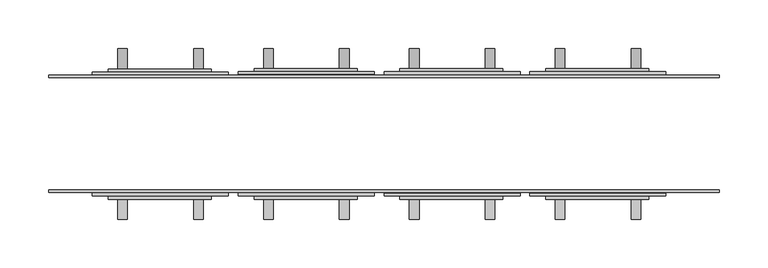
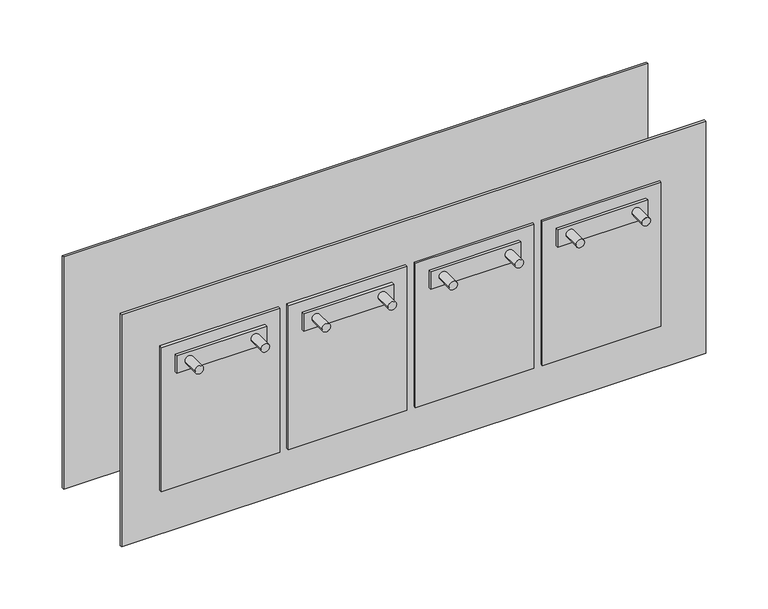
"""IFC4 building model written with IfcOpenShell, lengths in millimetres: proxy geometry, Distribution_Sockets : Distribution_Sockets."""

import ifcopenshell
import ifcopenshell.guid

model = None  # the IFC model being written
_history = None  # IfcOwnerHistory: only IFC2X3 demands one
_inside = {}  # id of a spatial element -> (the spatial element, [elements in it])
_under = {}  # id of a project, library or spatial element -> (it, [spatial elements below it])
_declared = {}  # id of a project -> (the project, [libraries it declares])
_typed = {}  # id of a type object -> (the type object, [elements of that type])
_made_of = {}  # id of a material, layer set ... -> (it, [elements and type objects made of it])


def new_model(schema):
    """Start an empty IFC model of exactly this schema.

    Asked for "IFC4X3", IfcOpenShell would pick the latest addendum, in which some entities
    have other attributes; the version numbers below select the first issue.
    IFC2X3 requires an IfcOwnerHistory on every rooted entity: one is made here for all.
    """
    global model, _history
    if schema == "IFC4X3":
        model = ifcopenshell.file(schema_version=(4, 3, 0, 0))
    else:
        model = ifcopenshell.file(schema=schema)
    _inside.clear()
    _under.clear()
    _declared.clear()
    _typed.clear()
    _made_of.clear()
    _history = None
    if model.schema == "IFC2X3":
        org = make("IfcOrganization", Name="unknown")
        user = make(
            "IfcPersonAndOrganization",
            ThePerson=make("IfcPerson", FamilyName="unknown"),
            TheOrganization=org,
        )
        app = make(
            "IfcApplication",
            ApplicationDeveloper=org,
            Version="unknown",
            ApplicationFullName="unknown",
            ApplicationIdentifier="unknown",
        )
        _history = make(
            "IfcOwnerHistory",
            OwningUser=user,
            OwningApplication=app,
            ChangeAction="ADDED",
            CreationDate=0,
        )
    return model


def make(cls, **values):
    """One entity of the class cls with the attributes given. An attribute that is None is left unset."""
    return model.create_entity(
        cls, **{name: value for name, value in values.items() if value is not None}
    )


def rooted(cls, **values):
    """An entity with a GlobalId (a new one), such as an element, a storey or a relation."""
    return make(cls, GlobalId=ifcopenshell.guid.new(), OwnerHistory=_history, **values)


def si_unit(unit_type, name, prefix=None):
    """IfcSIUnit, for example si_unit("LENGTHUNIT", "METRE", prefix="MILLI")."""
    return make("IfcSIUnit", UnitType=unit_type, Prefix=prefix, Name=name)


def assignment(units):
    """IfcUnitAssignment: the units of a project."""
    return None if units is None else make("IfcUnitAssignment", Units=units)


def point(xyz):
    """IfcCartesianPoint."""
    return None if xyz is None else make("IfcCartesianPoint", Coordinates=xyz)


def direction(xyz):
    """IfcDirection."""
    return None if xyz is None else make("IfcDirection", DirectionRatios=xyz)


def frame(location, z_axis=None, x_axis=None):
    """IfcAxis2Placement3D, a coordinate frame: its origin and axes. An axis left out is left unset."""
    return make(
        "IfcAxis2Placement3D",
        Location=point(location),
        Axis=direction(z_axis),
        RefDirection=direction(x_axis),
    )


def frame_2d(location, x_axis=None):
    """IfcAxis2Placement2D, a coordinate frame in the plane: its origin and x axis."""
    return make(
        "IfcAxis2Placement2D", Location=point(location), RefDirection=direction(x_axis)
    )


def origin():
    """The frame at (0, 0, 0) with its axes left unset."""
    return frame((0.0, 0.0, 0.0))


def place(relative_to, where):
    """IfcLocalPlacement: puts the frame where relative to a parent placement (None: the world)."""
    return make(
        "IfcLocalPlacement", PlacementRelTo=relative_to, RelativePlacement=where
    )


def context(
    kind, dimensions, precision=None, world=None, true_north=None, identifier=None
):
    """IfcGeometricRepresentationContext, for example the 3D "Model" context."""
    return make(
        "IfcGeometricRepresentationContext",
        ContextIdentifier=identifier,
        ContextType=kind,
        CoordinateSpaceDimension=dimensions,
        Precision=precision,
        WorldCoordinateSystem=world,
        TrueNorth=true_north,
    )


def project(units=None, contexts=None):
    """IfcProject with its units and contexts."""
    return rooted(
        "IfcProject",
        Name="project",
        RepresentationContexts=contexts,
        UnitsInContext=assignment(units),
    )


def spatial(cls, under=None, at=None, **own):
    """A site, building, storey or space (cls), placed at a placement, below another one or the project."""
    s = rooted(cls, ObjectPlacement=at, **own)
    if under is not None:
        _under.setdefault(under.id(), (under, []))[1].append(s)
    return s


def polyline(points):
    """IfcPolyline through the points."""
    return make("IfcPolyline", Points=[point(p) for p in points])


def circle_curve(where, radius):
    """IfcCircle in the frame where."""
    return make("IfcCircle", Position=where, Radius=radius)


def trimmed(basis, trim1, trim2, sense, master):
    """IfcTrimmedCurve: the piece of a basis curve between two trims."""
    return make(
        "IfcTrimmedCurve",
        BasisCurve=basis,
        Trim1=trim1,
        Trim2=trim2,
        SenseAgreement=sense,
        MasterRepresentation=master,
    )


def segment(curve, same_sense, transition):
    """IfcCompositeCurveSegment."""
    return make(
        "IfcCompositeCurveSegment",
        Transition=transition,
        SameSense=same_sense,
        ParentCurve=curve,
    )


def composite_curve(segments, self_intersect=None):
    """IfcCompositeCurve: segments joined end to end."""
    return make("IfcCompositeCurve", Segments=segments, SelfIntersect=self_intersect)


def outline(outer, holes=None, kind="AREA"):
    """IfcArbitraryClosedProfileDef: a profile drawn as a closed curve; with holes, ...WithVoids."""
    if holes is None:
        return make("IfcArbitraryClosedProfileDef", ProfileType=kind, OuterCurve=outer)
    return make(
        "IfcArbitraryProfileDefWithVoids",
        ProfileType=kind,
        OuterCurve=outer,
        InnerCurves=holes,
    )


def extrude(swept, where, along, depth):
    """IfcExtrudedAreaSolid: the profile swept, set in the frame where, extruded along a direction by depth."""
    return make(
        "IfcExtrudedAreaSolid",
        SweptArea=swept,
        Position=where,
        ExtrudedDirection=direction(along),
        Depth=depth,
    )


def shape(context_of_items, identifier, shape_type, items):
    """IfcShapeRepresentation: the items that make up one representation, for example the "Body"."""
    return make(
        "IfcShapeRepresentation",
        ContextOfItems=context_of_items,
        RepresentationIdentifier=identifier,
        RepresentationType=shape_type,
        Items=items,
    )


def source(mapping_origin, context_of_items, identifier, shape_type, items):
    """IfcRepresentationMap: a shape defined once, which mapped items show again and again."""
    return make(
        "IfcRepresentationMap",
        MappingOrigin=mapping_origin,
        MappedRepresentation=shape(context_of_items, identifier, shape_type, items),
    )


def transform(
    local_origin,
    x_axis=None,
    y_axis=None,
    z_axis=None,
    scale=None,
    scale2=None,
    scale3=None,
    uniform=True,
):
    """IfcCartesianTransformationOperator3D, or its non-uniform kind. x_axis, y_axis, z_axis: its Axis1, 2, 3."""
    if uniform:
        return make(
            "IfcCartesianTransformationOperator3D",
            Axis1=direction(x_axis),
            Axis2=direction(y_axis),
            LocalOrigin=point(local_origin),
            Scale=scale,
            Axis3=direction(z_axis),
        )
    return make(
        "IfcCartesianTransformationOperator3DnonUniform",
        Axis1=direction(x_axis),
        Axis2=direction(y_axis),
        LocalOrigin=point(local_origin),
        Scale=scale,
        Axis3=direction(z_axis),
        Scale2=scale2,
        Scale3=scale3,
    )


def mapped(mapping_source, mapping_target):
    """IfcMappedItem: shows the shape of a source again, moved by a transform."""
    return make(
        "IfcMappedItem", MappingSource=mapping_source, MappingTarget=mapping_target
    )


def made_of(thing, what):
    """Note that an element or type object is made of a material, layer set ...; save() writes the relation."""
    if what is not None:
        _made_of.setdefault(what.id(), (what, []))[1].append(thing)
    return thing


def element(
    cls,
    number,
    at=None,
    inside=None,
    cuts=None,
    type_object=None,
    material=None,
    context=None,
    identifier="Body",
    shape_type=None,
    held_by="IfcProductDefinitionShape",
    body=None,
    shapes=None,
    **own,
):
    """One element of the class cls, such as IfcWall. Its Tag is "e" and its number.

    at: its placement. inside: the storey or other place that contains it. cuts: it is an
    opening in that element (IfcRelVoidsElement). A single representation is given by context,
    identifier, shape_type and body (its items); several are given by shapes. held_by: the class
    of the entity that holds the representations. save() writes the other relations.
    """
    e = rooted(cls, Tag="e%d" % number, ObjectPlacement=at, **own)
    if body is not None:
        shapes = [shape(context, identifier, shape_type, body)]
    if shapes is not None:
        e.Representation = make(held_by, Representations=shapes)
    if inside is not None:
        _inside.setdefault(inside.id(), (inside, []))[1].append(e)
    if cuts is not None:
        rooted(
            "IfcRelVoidsElement", RelatingBuildingElement=cuts, RelatedOpeningElement=e
        )
    if type_object is not None:
        _typed.setdefault(type_object.id(), (type_object, []))[1].append(e)
    return made_of(e, material)


def aggregate(whole, parts):
    """IfcRelAggregates: a whole, such as a stair, and the parts it consists of."""
    return rooted("IfcRelAggregates", RelatingObject=whole, RelatedObjects=parts)


def save(model, path):
    """Write the relations noted so far, then the file.

    IfcRelAggregates (storeys below a building ...), IfcRelContainedInSpatialStructure (elements
    in a storey), IfcRelDefinesByType, IfcRelAssociatesMaterial and IfcRelDeclares: one each for
    every whole, place, type object, material and project.
    """
    for whole, parts in _under.values():
        aggregate(whole, parts)
    for where, things in _inside.values():
        rooted(
            "IfcRelContainedInSpatialStructure",
            RelatedElements=things,
            RelatingStructure=where,
        )
    for kind, things in _typed.values():
        rooted("IfcRelDefinesByType", RelatedObjects=things, RelatingType=kind)
    for what, things in _made_of.values():
        rooted("IfcRelAssociatesMaterial", RelatedObjects=things, RelatingMaterial=what)
    for by, libraries in _declared.values():
        rooted("IfcRelDeclares", RelatingContext=by, RelatedDefinitions=libraries)
    model.write(path)


def electrical_equipment_f38b721f(model_context):
    return source(origin(), model_context, "Body", "SweptSolid", [
        extrude(outline(composite_curve([segment(trimmed(circle_curve(frame_2d((65.938994, -268.933241)), 5.0), [point((65.938994, -263.933241))], [point((65.938994, -273.933241))], False, "CARTESIAN"), True, "CONTINUOUS"), segment(trimmed(circle_curve(frame_2d((65.938994, -268.933241)), 5.0), [point((65.938994, -273.933241))], [point((65.938994, -263.933241))], False, "CARTESIAN"), True, "CONTINUOUS")], self_intersect=False)), frame((0.0, 67.0, 0.0), z_axis=(0.0, 1.0, 0.0), x_axis=(0.0, 0.0, 1.0)), (0.0, 0.0, 1.0), 20.9),
        extrude(outline(composite_curve([segment(trimmed(circle_curve(frame_2d((65.938994, -190.9375543)), 5.0), [point((65.938994, -185.9375543))], [point((65.938994, -195.9375543))], False, "CARTESIAN"), True, "CONTINUOUS"), segment(trimmed(circle_curve(frame_2d((65.938994, -190.9375543)), 5.0), [point((65.938994, -195.9375543))], [point((65.938994, -185.9375543))], False, "CARTESIAN"), True, "CONTINUOUS")], self_intersect=False)), frame((0.0, 67.0, 0.0), z_axis=(0.0, 1.0, 0.0), x_axis=(0.0, 0.0, 1.0)), (0.0, 0.0, 1.0), 20.9),
        extrude(outline(composite_curve([segment(trimmed(circle_curve(frame_2d((65.938994, -118.920841)), 5.0), [point((65.938994, -113.920841))], [point((65.938994, -123.920841))], False, "CARTESIAN"), True, "CONTINUOUS"), segment(trimmed(circle_curve(frame_2d((65.938994, -118.920841)), 5.0), [point((65.938994, -123.920841))], [point((65.938994, -113.920841))], False, "CARTESIAN"), True, "CONTINUOUS")], self_intersect=False)), frame((0.0, 67.0, 0.0), z_axis=(0.0, 1.0, 0.0), x_axis=(0.0, 0.0, 1.0)), (0.0, 0.0, 1.0), 20.9),
        extrude(outline(composite_curve([segment(trimmed(circle_curve(frame_2d((65.938994, -40.9251543)), 5.0), [point((65.938994, -35.9251543))], [point((65.938994, -45.9251543))], False, "CARTESIAN"), True, "CONTINUOUS"), segment(trimmed(circle_curve(frame_2d((65.938994, -40.9251543)), 5.0), [point((65.938994, -45.9251543))], [point((65.938994, -35.9251543))], False, "CARTESIAN"), True, "CONTINUOUS")], self_intersect=False)), frame((0.0, 67.0, 0.0), z_axis=(0.0, 1.0, 0.0), x_axis=(0.0, 0.0, 1.0)), (0.0, 0.0, 1.0), 20.9),
        extrude(outline(composite_curve([segment(trimmed(circle_curve(frame_2d((65.938994, 31.079159)), 5.0), [point((65.938994, 36.079159))], [point((65.938994, 26.079159))], False, "CARTESIAN"), True, "CONTINUOUS"), segment(trimmed(circle_curve(frame_2d((65.938994, 31.079159)), 5.0), [point((65.938994, 26.079159))], [point((65.938994, 36.079159))], False, "CARTESIAN"), True, "CONTINUOUS")], self_intersect=False)), frame((0.0, 67.0, 0.0), z_axis=(0.0, 1.0, 0.0), x_axis=(0.0, 0.0, 1.0)), (0.0, 0.0, 1.0), 20.9),
        extrude(outline(composite_curve([segment(trimmed(circle_curve(frame_2d((65.938994, 109.0748457)), 5.0), [point((65.938994, 114.0748457))], [point((65.938994, 104.0748457))], False, "CARTESIAN"), True, "CONTINUOUS"), segment(trimmed(circle_curve(frame_2d((65.938994, 109.0748457)), 5.0), [point((65.938994, 104.0748457))], [point((65.938994, 114.0748457))], False, "CARTESIAN"), True, "CONTINUOUS")], self_intersect=False)), frame((0.0, 67.0, 0.0), z_axis=(0.0, 1.0, 0.0), x_axis=(0.0, 0.0, 1.0)), (0.0, 0.0, 1.0), 20.9),
        extrude(outline(composite_curve([segment(trimmed(circle_curve(frame_2d((65.938994, 181.079159)), 5.0), [point((65.938994, 186.079159))], [point((65.938994, 176.079159))], False, "CARTESIAN"), True, "CONTINUOUS"), segment(trimmed(circle_curve(frame_2d((65.938994, 181.079159)), 5.0), [point((65.938994, 176.079159))], [point((65.938994, 186.079159))], False, "CARTESIAN"), True, "CONTINUOUS")], self_intersect=False)), frame((0.0, 67.0, 0.0), z_axis=(0.0, 1.0, 0.0), x_axis=(0.0, 0.0, 1.0)), (0.0, 0.0, 1.0), 20.9),
        extrude(outline(composite_curve([segment(trimmed(circle_curve(frame_2d((65.938994, 259.0748457)), 5.0), [point((65.938994, 264.0748457))], [point((65.938994, 254.0748457))], False, "CARTESIAN"), True, "CONTINUOUS"), segment(trimmed(circle_curve(frame_2d((65.938994, 259.0748457)), 5.0), [point((65.938994, 254.0748457))], [point((65.938994, 264.0748457))], False, "CARTESIAN"), True, "CONTINUOUS")], self_intersect=False)), frame((0.0, 67.0, 0.0), z_axis=(0.0, 1.0, 0.0), x_axis=(0.0, 0.0, 1.0)), (0.0, 0.0, 1.0), 20.9),
        extrude(outline(composite_curve([segment(trimmed(circle_curve(frame_2d((65.938994, -268.933241)), 5.0), [point((65.938994, -263.933241))], [point((65.938994, -273.933241))], False, "CARTESIAN"), True, "CONTINUOUS"), segment(trimmed(circle_curve(frame_2d((65.938994, -268.933241)), 5.0), [point((65.938994, -273.933241))], [point((65.938994, -263.933241))], False, "CARTESIAN"), True, "CONTINUOUS")], self_intersect=False)), frame((0.0, -87.9, 0.0), z_axis=(0.0, 1.0, 0.0), x_axis=(0.0, 0.0, 1.0)), (0.0, 0.0, 1.0), 20.9),
        extrude(outline(composite_curve([segment(trimmed(circle_curve(frame_2d((65.938994, -190.9375543)), 5.0), [point((65.938994, -185.9375543))], [point((65.938994, -195.9375543))], False, "CARTESIAN"), True, "CONTINUOUS"), segment(trimmed(circle_curve(frame_2d((65.938994, -190.9375543)), 5.0), [point((65.938994, -195.9375543))], [point((65.938994, -185.9375543))], False, "CARTESIAN"), True, "CONTINUOUS")], self_intersect=False)), frame((0.0, -87.9, 0.0), z_axis=(0.0, 1.0, 0.0), x_axis=(0.0, 0.0, 1.0)), (0.0, 0.0, 1.0), 20.9),
        extrude(outline(composite_curve([segment(trimmed(circle_curve(frame_2d((65.938994, -118.920841)), 5.0), [point((65.938994, -113.920841))], [point((65.938994, -123.920841))], False, "CARTESIAN"), True, "CONTINUOUS"), segment(trimmed(circle_curve(frame_2d((65.938994, -118.920841)), 5.0), [point((65.938994, -123.920841))], [point((65.938994, -113.920841))], False, "CARTESIAN"), True, "CONTINUOUS")], self_intersect=False)), frame((0.0, -87.9, 0.0), z_axis=(0.0, 1.0, 0.0), x_axis=(0.0, 0.0, 1.0)), (0.0, 0.0, 1.0), 20.9),
        extrude(outline(composite_curve([segment(trimmed(circle_curve(frame_2d((65.938994, -40.9251543)), 5.0), [point((65.938994, -35.9251543))], [point((65.938994, -45.9251543))], False, "CARTESIAN"), True, "CONTINUOUS"), segment(trimmed(circle_curve(frame_2d((65.938994, -40.9251543)), 5.0), [point((65.938994, -45.9251543))], [point((65.938994, -35.9251543))], False, "CARTESIAN"), True, "CONTINUOUS")], self_intersect=False)), frame((0.0, -87.9, 0.0), z_axis=(0.0, 1.0, 0.0), x_axis=(0.0, 0.0, 1.0)), (0.0, 0.0, 1.0), 20.9),
        extrude(outline(composite_curve([segment(trimmed(circle_curve(frame_2d((65.938994, 31.079159)), 5.0), [point((65.938994, 36.079159))], [point((65.938994, 26.079159))], False, "CARTESIAN"), True, "CONTINUOUS"), segment(trimmed(circle_curve(frame_2d((65.938994, 31.079159)), 5.0), [point((65.938994, 26.079159))], [point((65.938994, 36.079159))], False, "CARTESIAN"), True, "CONTINUOUS")], self_intersect=False)), frame((0.0, -87.9, 0.0), z_axis=(0.0, 1.0, 0.0), x_axis=(0.0, 0.0, 1.0)), (0.0, 0.0, 1.0), 20.9),
        extrude(outline(composite_curve([segment(trimmed(circle_curve(frame_2d((65.938994, 109.0748457)), 5.0), [point((65.938994, 114.0748457))], [point((65.938994, 104.0748457))], False, "CARTESIAN"), True, "CONTINUOUS"), segment(trimmed(circle_curve(frame_2d((65.938994, 109.0748457)), 5.0), [point((65.938994, 104.0748457))], [point((65.938994, 114.0748457))], False, "CARTESIAN"), True, "CONTINUOUS")], self_intersect=False)), frame((0.0, -87.9, 0.0), z_axis=(0.0, 1.0, 0.0), x_axis=(0.0, 0.0, 1.0)), (0.0, 0.0, 1.0), 20.9),
        extrude(outline(composite_curve([segment(trimmed(circle_curve(frame_2d((65.938994, 181.079159)), 5.0), [point((65.938994, 186.079159))], [point((65.938994, 176.079159))], False, "CARTESIAN"), True, "CONTINUOUS"), segment(trimmed(circle_curve(frame_2d((65.938994, 181.079159)), 5.0), [point((65.938994, 176.079159))], [point((65.938994, 186.079159))], False, "CARTESIAN"), True, "CONTINUOUS")], self_intersect=False)), frame((0.0, -87.9, 0.0), z_axis=(0.0, 1.0, 0.0), x_axis=(0.0, 0.0, 1.0)), (0.0, 0.0, 1.0), 20.9),
        extrude(outline(composite_curve([segment(trimmed(circle_curve(frame_2d((65.938994, 259.0748457)), 5.0), [point((65.938994, 264.0748457))], [point((65.938994, 254.0748457))], False, "CARTESIAN"), True, "CONTINUOUS"), segment(trimmed(circle_curve(frame_2d((65.938994, 259.0748457)), 5.0), [point((65.938994, 254.0748457))], [point((65.938994, 264.0748457))], False, "CARTESIAN"), True, "CONTINUOUS")], self_intersect=False)), frame((0.0, -87.9, 0.0), z_axis=(0.0, 1.0, 0.0), x_axis=(0.0, 0.0, 1.0)), (0.0, 0.0, 1.0), 20.9),
        extrude(outline(polyline([(-177.6321808, 66.6294997), (-177.6321808, 63.6294997), (-283.6322514, 63.6294997), (-283.6322514, 66.6294997), (-177.6321808, 66.6294997)])), frame((0.0, 0.0, 54.0), z_axis=(0.0, 0.0, 1.0), x_axis=(1.0, 0.0, 0.0)), (0.0, 0.0, 1.0), 22.0),
        extrude(outline(polyline([(-27.6196804, 67.3705036), (-27.6196804, 64.0000036), (-133.619751, 64.0000036), (-133.619751, 67.3705036), (-27.6196804, 67.3705036)])), frame((0.0, 0.0, 54.0), z_axis=(0.0, 0.0, 1.0), x_axis=(1.0, 0.0, 0.0)), (0.0, 0.0, 1.0), 22.0),
        extrude(outline(polyline([(122.3802833, 67.3704993), (122.3802833, 63.9999993), (16.3802127, 63.9999993), (16.3802127, 67.3704993), (122.3802833, 67.3704993)])), frame((0.0, 0.0, 54.0), z_axis=(0.0, 0.0, 1.0), x_axis=(1.0, 0.0, 0.0)), (0.0, 0.0, 1.0), 22.0),
        extrude(outline(polyline([(272.3802833, 67.3704993), (272.3802833, 63.9999993), (166.3802127, 63.9999993), (166.3802127, 67.3704993), (272.3802833, 67.3704993)])), frame((0.0, 0.0, 54.0), z_axis=(0.0, 0.0, 1.0), x_axis=(1.0, 0.0, 0.0)), (0.0, 0.0, 1.0), 22.0),
        extrude(outline(polyline([(-177.6321808, -67.3704993), (-283.6322514, -67.3704993), (-283.6322514, -63.9999993), (-177.6321808, -63.9999993), (-177.6321808, -67.3704993)])), frame((0.0, 0.0, 54.0), z_axis=(0.0, 0.0, 1.0), x_axis=(1.0, 0.0, 0.0)), (0.0, 0.0, 1.0), 22.0),
        extrude(outline(polyline([(-27.6196804, -67.3705036), (-133.619751, -67.3705036), (-133.619751, -64.0000036), (-27.6196804, -64.0000036), (-27.6196804, -67.3705036)])), frame((0.0, 0.0, 54.0), z_axis=(0.0, 0.0, 1.0), x_axis=(1.0, 0.0, 0.0)), (0.0, 0.0, 1.0), 22.0),
        extrude(outline(polyline([(122.3802833, -67.3704993), (16.3802127, -67.3704993), (16.3802127, -63.9999993), (122.3802833, -63.9999993), (122.3802833, -67.3704993)])), frame((0.0, 0.0, 54.0), z_axis=(0.0, 0.0, 1.0), x_axis=(1.0, 0.0, 0.0)), (0.0, 0.0, 1.0), 22.0),
        extrude(outline(polyline([(272.3802833, -67.3704993), (166.3802127, -67.3704993), (166.3802127, -63.9999993), (272.3802833, -63.9999993), (272.3802833, -67.3704993)])), frame((0.0, 0.0, 54.0), z_axis=(0.0, 0.0, 1.0), x_axis=(1.0, 0.0, 0.0)), (0.0, 0.0, 1.0), 22.0),
        extrude(outline(polyline([(-300.0123562, 63.6294997), (-160.012326, 63.6294997), (-160.012326, 60.6294997), (-300.0123562, 60.6294997), (-300.0123562, 63.6294997)])), frame((0.0, 0.0, -90.0), z_axis=(0.0, 0.0, 1.0), x_axis=(1.0, 0.0, 0.0)), (0.0, 0.0, 1.0), 180.0),
        extrude(outline(polyline([(-300.0123562, -64.0000022), (-300.0123562, -60.6295025), (-160.012326, -60.6295025), (-160.012326, -64.0000022), (-300.0123562, -64.0000022)])), frame((0.0, 0.0, -90.0), z_axis=(0.0, 0.0, 1.0), x_axis=(1.0, 0.0, 0.0)), (0.0, 0.0, 1.0), 180.0),
        extrude(outline(polyline([(-150.0000011, 63.9999971), (-9.999971, 63.9999971), (-9.999971, 61.3705), (-150.0000011, 61.3705), (-150.0000011, 63.9999971)])), frame((0.0, 0.0, -90.0), z_axis=(0.0, 0.0, 1.0), x_axis=(1.0, 0.0, 0.0)), (0.0, 0.0, 1.0), 180.0),
        extrude(outline(polyline([(-150.0000011, -64.0000022), (-150.0000011, -60.6295025), (-9.999971, -60.6295025), (-9.999971, -64.0000022), (-150.0000011, -64.0000022)])), frame((0.0, 0.0, -90.0), z_axis=(0.0, 0.0, 1.0), x_axis=(1.0, 0.0, 0.0)), (0.0, 0.0, 1.0), 180.0),
        extrude(outline(polyline([(2.48e-05, 63.9999993), (140.000055, 63.9999993), (140.000055, 60.6295015), (2.48e-05, 60.6295015), (2.48e-05, 63.9999993)])), frame((0.0, 0.0, -90.0), z_axis=(0.0, 0.0, 1.0), x_axis=(1.0, 0.0, 0.0)), (0.0, 0.0, 1.0), 180.0),
        extrude(outline(polyline([(2.48e-05, -64.0), (2.48e-05, -61.370498), (140.000055, -61.370498), (140.000055, -64.0), (2.48e-05, -64.0)])), frame((0.0, 0.0, -90.0), z_axis=(0.0, 0.0, 1.0), x_axis=(1.0, 0.0, 0.0)), (0.0, 0.0, 1.0), 180.0),
        extrude(outline(polyline([(150.0000248, 63.9999993), (290.000055, 63.9999993), (290.000055, 60.6295015), (150.0000248, 60.6295015), (150.0000248, 63.9999993)])), frame((0.0, 0.0, -90.0), z_axis=(0.0, 0.0, 1.0), x_axis=(1.0, 0.0, 0.0)), (0.0, 0.0, 1.0), 180.0),
        extrude(outline(polyline([(150.0000248, -64.0), (150.0000248, -61.370498), (290.000055, -61.370498), (290.000055, -64.0), (150.0000248, -64.0)])), frame((0.0, 0.0, -90.0), z_axis=(0.0, 0.0, 1.0), x_axis=(1.0, 0.0, 0.0)), (0.0, 0.0, 1.0), 180.0),
        extrude(outline(polyline([(345.0000172, 60.6294997), (345.0000172, 58.0), (-345.0048134, 58.0), (-345.0048134, 60.6294997), (345.0000172, 60.6294997)])), frame((0.0, 0.0, -145.0), z_axis=(0.0, 0.0, 1.0), x_axis=(1.0, 0.0, 0.0)), (0.0, 0.0, 1.0), 290.0),
        extrude(outline(polyline([(-345.0048134, -60.6295025), (-345.0048134, -58.0), (345.0000172, -58.0), (345.0000172, -60.6295025), (-345.0048134, -60.6295025)])), frame((0.0, 0.0, -145.0), z_axis=(0.0, 0.0, 1.0), x_axis=(1.0, 0.0, 0.0)), (0.0, 0.0, 1.0), 290.0),
    ])


if __name__ == "__main__":
    model = new_model("IFC4")
    model_context = context("Model", 3, world=origin())
    ifc_project = project(units=[si_unit("LENGTHUNIT", "METRE", prefix="MILLI")], contexts=[model_context])
    site = spatial("IfcSite", under=ifc_project)
    building = spatial("IfcBuilding", under=site)
    placement = place(None, origin())
    electrical_equipment_shape = electrical_equipment_f38b721f(model_context)
    element("IfcBuildingElementProxy", 1, Name="Distribution_Sockets : Distribution_Sockets", ObjectType="Distribution_Sockets : Distribution_Sockets", at=placement, inside=building, context=model_context, shape_type="MappedRepresentation", body=[
        mapped(electrical_equipment_shape, transform((0.0, 0.0, 0.0), x_axis=(1.0, 0.0, 0.0), y_axis=(0.0, 1.0, 0.0), z_axis=(0.0, 0.0, 1.0))),
    ])
    save(model, "model.ifc")
